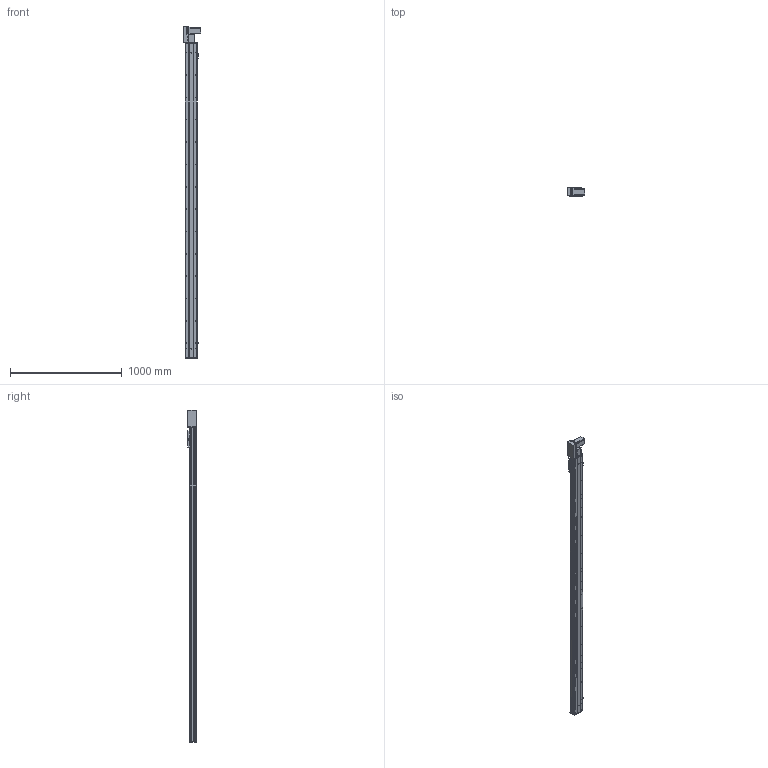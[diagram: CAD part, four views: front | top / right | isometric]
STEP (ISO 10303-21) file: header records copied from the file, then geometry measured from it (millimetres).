
FILE_DESCRIPTION (( 'STEP AP203' ), '1' );
FILE_NAME ('Y10CB-D90-S2550-BL-P400W.STEP', '2020-02-15T08:48:22', ( '微软用户' ), ( '微软中国' ), 'SwSTEP 2.0', 'SolidWorks 2017', '' );
FILE_SCHEMA (( 'CONFIG_CONTROL_DESIGN' ));
Length unit declared in the file: millimetre
Products named in the file (18): Y10CB-D90-S2550-BL-P400W; Y俋欶BR----; 0Cb-俋欶---; 10CB-詩湍-; Y10B-々湍喘謫眊楊擘啣--; Y10CB- 掛极耜裔啣-毀---; Y10B--々湍喘謫眊--666; Y10C---詩湍揤啣; Y10B-耜蚾蟀諉啣----; 10CB9-掛极; 0B-萇儂楊擘啣; 10CB-耜裔; san松下电机400不带刹车----; Y135C-陔俋离換覜結え-; 0B-源倛裔啣; Y100-135俋离換覜ん--; 0B-埴倛裔啣; 0CB-雄赽釱---
Assembly tree (21 placements, depth 2):
  Y10CB-D90-S2550-BL-P400W
    0CB-雄赽釱---
    0Cb-俋欶---
    Y10B-々湍喘謫眊楊擘啣--
    Y10B--々湍喘謫眊--666
    Y10B-耜蚾蟀諉啣----
    0B-萇儂楊擘啣
    san松下电机400不带刹车----
    0B-源倛裔啣
    0B-埴倛裔啣
    Y俋欶BR----
    10CB-詩湍-
    Y10CB- 掛极耜裔啣-毀---  x2
    Y10C---詩湍揤啣  x2
    10CB9-掛极
    10CB-耜裔
    Y135C-陔俋离換覜結え-
    Y100-135俋离換覜ん--  x3
Bounding box: 157.5 x 80.5 x 2972.5 mm (x, y, z)
Volume: 5841336.8 mm3; surface area: 2777322.5 mm2
Topology: 21 solids, 21 shells, 1086 faces, 2963 edges, 1922 vertices
Faces by surface type: cylinder 567, plane 495, cone 24
Entity records: 34904 total; most frequent: CARTESIAN_POINT 6653, DIRECTION 5538, ORIENTED_EDGE 5396, EDGE_CURVE 2698, AXIS2_PLACEMENT_3D 1977, VERTEX_POINT 1748, LINE 1584, VECTOR 1584
